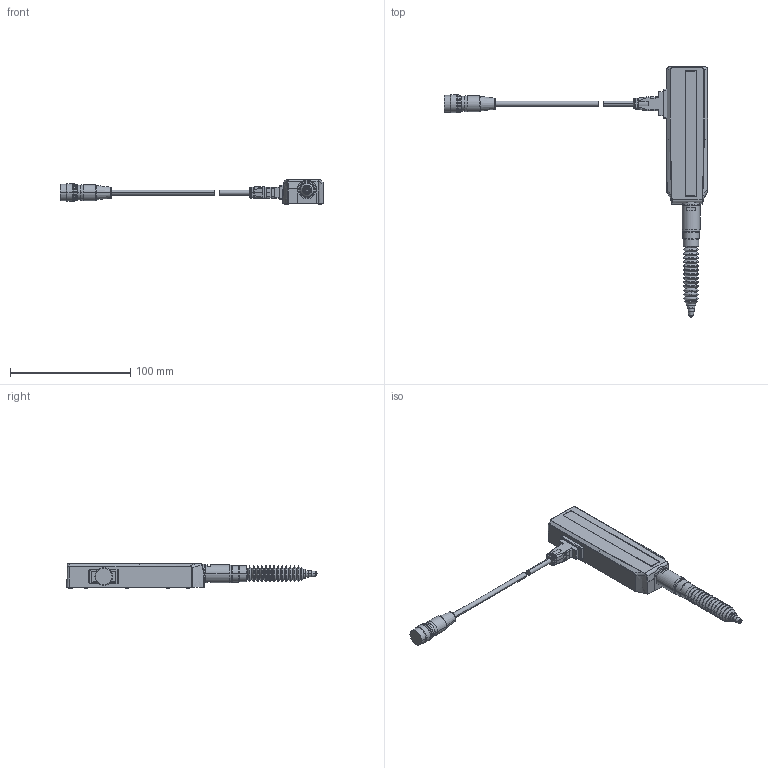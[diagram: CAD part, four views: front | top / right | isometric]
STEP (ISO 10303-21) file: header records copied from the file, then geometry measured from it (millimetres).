
FILE_DESCRIPTION(('Creo Elements/Direct Modeling STEP Export'),'2;1');
FILE_NAME('LG100-125外観3Dデータ.stp','2020-10-05T 9:20:00',(''),(''),'Creo Elements/Direct Modeling STEP processor for AP214 (Solid Model)','Creo Elements/Direct Modeling 18.1I 13-Aug-2016 (C) Parametric Technology GmbH','');
FILE_SCHEMA(('AUTOMOTIVE_DESIGN { 1 0 10303 214 1 1 1 1 }'));
Length unit declared in the file: millimetre
Products named in the file (3): 542-19x_LG100-25mm; 542-19x_LG100-GageConn.
Assembly tree (1 placements, depth 2):
  542-19x_LG100-25mm
  542-19x_LG100-GageConn.
    542-19x_LG100-GageConn.
Bounding box: 219.05 x 208.3 x 20.7 mm (x, y, z)
Volume: 96302.1 mm3; surface area: 22747.1 mm2
Topology: 2 solids, 2 shells, 520 faces, 1231 edges, 719 vertices
Faces by surface type: plane 127, cylinder 122, cone 100, torus 84, bspline 57, sphere 26, extrusion 4
Entity records: 22444 total; most frequent: CARTESIAN_POINT 11554, ORIENTED_EDGE 2406, DIRECTION 2097, EDGE_CURVE 1203, AXIS2_PLACEMENT_3D 813, VERTEX_POINT 719, EDGE_LOOP 552, FACE_OUTER_BOUND 520
